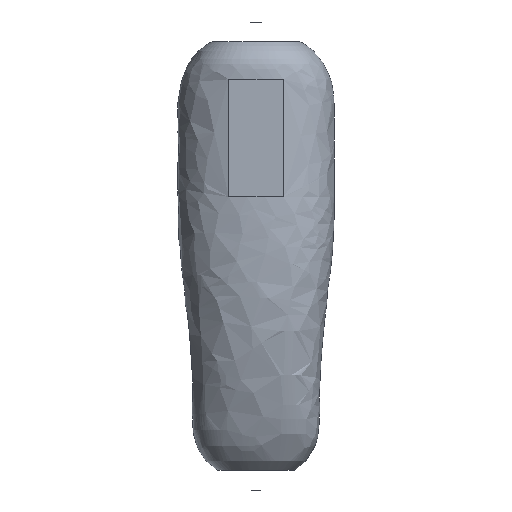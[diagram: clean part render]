
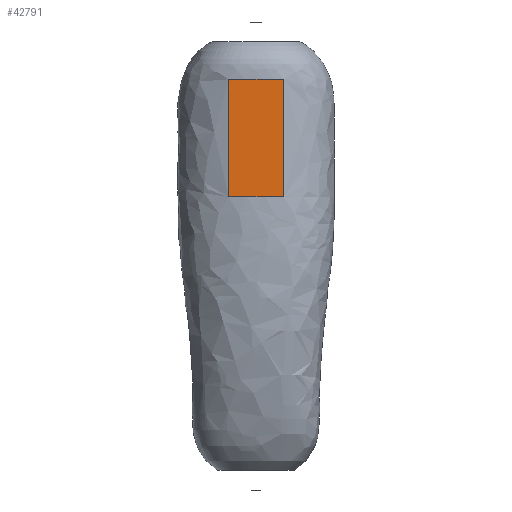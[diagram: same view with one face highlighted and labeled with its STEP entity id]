
A CAD part, left-side view. The second image highlights one B-rep face of the part: STEP entity #42791.
In plain terms, the highlighted planar face has unit normal (1, 0, 0).
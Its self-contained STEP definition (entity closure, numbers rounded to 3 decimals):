
#41129 = PLANE('',#41130);
#41130 = AXIS2_PLACEMENT_3D('',#41131,#41132,#41133);
#41131 = CARTESIAN_POINT('',(-67.6,-2.8,96.65));
#41132 = DIRECTION('',(0.,0.,1.));
#41133 = DIRECTION('',(1.,0.,-0.));
#41639 = PLANE('',#41640);
#41640 = AXIS2_PLACEMENT_3D('',#41641,#41642,#41643);
#41641 = CARTESIAN_POINT('',(-67.6,-2.8,96.65));
#41642 = DIRECTION('',(-0.,1.,0.));
#41643 = DIRECTION('',(0.,0.,1.));
#42050 = PLANE('',#42051);
#42051 = AXIS2_PLACEMENT_3D('',#42052,#42053,#42054);
#42052 = CARTESIAN_POINT('',(-67.6,-2.8,117.35));
#42053 = DIRECTION('',(0.,0.,1.));
#42054 = DIRECTION('',(1.,0.,-0.));
#42428 = PLANE('',#42429);
#42429 = AXIS2_PLACEMENT_3D('',#42430,#42431,#42432);
#42430 = CARTESIAN_POINT('',(-67.6,6.8,96.65));
#42431 = DIRECTION('',(-0.,1.,0.));
#42432 = DIRECTION('',(0.,0.,1.));
#42595 = VERTEX_POINT('',#42596);
#42596 = CARTESIAN_POINT('',(-67.6,6.8,96.65));
#42617 = EDGE_CURVE('',#42618,#42595,#42620,.T.);
#42618 = VERTEX_POINT('',#42619);
#42619 = CARTESIAN_POINT('',(-67.6,-2.8,96.65));
#42620 = SURFACE_CURVE('',#42621,(#42625,#42632),.PCURVE_S1.);
#42621 = LINE('',#42622,#42623);
#42622 = CARTESIAN_POINT('',(-67.6,-2.8,96.65));
#42623 = VECTOR('',#42624,1.);
#42624 = DIRECTION('',(-0.,1.,0.));
#42625 = PCURVE('',#41129,#42626);
#42626 = DEFINITIONAL_REPRESENTATION('',(#42627),#42631);
#42627 = LINE('',#42628,#42629);
#42628 = CARTESIAN_POINT('',(0.,0.));
#42629 = VECTOR('',#42630,1.);
#42630 = DIRECTION('',(0.,1.));
#42631 = ( GEOMETRIC_REPRESENTATION_CONTEXT(2) 
PARAMETRIC_REPRESENTATION_CONTEXT() REPRESENTATION_CONTEXT('2D SPACE',''
  ) );
#42632 = PCURVE('',#42633,#42638);
#42633 = PLANE('',#42634);
#42634 = AXIS2_PLACEMENT_3D('',#42635,#42636,#42637);
#42635 = CARTESIAN_POINT('',(-67.6,-2.8,96.65));
#42636 = DIRECTION('',(1.,0.,-0.));
#42637 = DIRECTION('',(0.,0.,1.));
#42638 = DEFINITIONAL_REPRESENTATION('',(#42639),#42643);
#42639 = LINE('',#42640,#42641);
#42640 = CARTESIAN_POINT('',(0.,0.));
#42641 = VECTOR('',#42642,1.);
#42642 = DIRECTION('',(0.,-1.));
#42643 = ( GEOMETRIC_REPRESENTATION_CONTEXT(2) 
PARAMETRIC_REPRESENTATION_CONTEXT() REPRESENTATION_CONTEXT('2D SPACE',''
  ) );
#42671 = EDGE_CURVE('',#42595,#42672,#42674,.T.);
#42672 = VERTEX_POINT('',#42673);
#42673 = CARTESIAN_POINT('',(-67.6,6.8,117.35));
#42674 = SURFACE_CURVE('',#42675,(#42679,#42686),.PCURVE_S1.);
#42675 = LINE('',#42676,#42677);
#42676 = CARTESIAN_POINT('',(-67.6,6.8,96.65));
#42677 = VECTOR('',#42678,1.);
#42678 = DIRECTION('',(0.,0.,1.));
#42679 = PCURVE('',#42428,#42680);
#42680 = DEFINITIONAL_REPRESENTATION('',(#42681),#42685);
#42681 = LINE('',#42682,#42683);
#42682 = CARTESIAN_POINT('',(0.,0.));
#42683 = VECTOR('',#42684,1.);
#42684 = DIRECTION('',(1.,0.));
#42685 = ( GEOMETRIC_REPRESENTATION_CONTEXT(2) 
PARAMETRIC_REPRESENTATION_CONTEXT() REPRESENTATION_CONTEXT('2D SPACE',''
  ) );
#42686 = PCURVE('',#42633,#42687);
#42687 = DEFINITIONAL_REPRESENTATION('',(#42688),#42692);
#42688 = LINE('',#42689,#42690);
#42689 = CARTESIAN_POINT('',(0.,-9.6));
#42690 = VECTOR('',#42691,1.);
#42691 = DIRECTION('',(1.,0.));
#42692 = ( GEOMETRIC_REPRESENTATION_CONTEXT(2) 
PARAMETRIC_REPRESENTATION_CONTEXT() REPRESENTATION_CONTEXT('2D SPACE',''
  ) );
#42720 = EDGE_CURVE('',#42618,#42721,#42723,.T.);
#42721 = VERTEX_POINT('',#42722);
#42722 = CARTESIAN_POINT('',(-67.6,-2.8,117.35));
#42723 = SURFACE_CURVE('',#42724,(#42728,#42735),.PCURVE_S1.);
#42724 = LINE('',#42725,#42726);
#42725 = CARTESIAN_POINT('',(-67.6,-2.8,96.65));
#42726 = VECTOR('',#42727,1.);
#42727 = DIRECTION('',(0.,0.,1.));
#42728 = PCURVE('',#41639,#42729);
#42729 = DEFINITIONAL_REPRESENTATION('',(#42730),#42734);
#42730 = LINE('',#42731,#42732);
#42731 = CARTESIAN_POINT('',(0.,0.));
#42732 = VECTOR('',#42733,1.);
#42733 = DIRECTION('',(1.,0.));
#42734 = ( GEOMETRIC_REPRESENTATION_CONTEXT(2) 
PARAMETRIC_REPRESENTATION_CONTEXT() REPRESENTATION_CONTEXT('2D SPACE',''
  ) );
#42735 = PCURVE('',#42633,#42736);
#42736 = DEFINITIONAL_REPRESENTATION('',(#42737),#42741);
#42737 = LINE('',#42738,#42739);
#42738 = CARTESIAN_POINT('',(0.,0.));
#42739 = VECTOR('',#42740,1.);
#42740 = DIRECTION('',(1.,0.));
#42741 = ( GEOMETRIC_REPRESENTATION_CONTEXT(2) 
PARAMETRIC_REPRESENTATION_CONTEXT() REPRESENTATION_CONTEXT('2D SPACE',''
  ) );
#42769 = EDGE_CURVE('',#42721,#42672,#42770,.T.);
#42770 = SURFACE_CURVE('',#42771,(#42775,#42782),.PCURVE_S1.);
#42771 = LINE('',#42772,#42773);
#42772 = CARTESIAN_POINT('',(-67.6,-2.8,117.35));
#42773 = VECTOR('',#42774,1.);
#42774 = DIRECTION('',(-0.,1.,0.));
#42775 = PCURVE('',#42050,#42776);
#42776 = DEFINITIONAL_REPRESENTATION('',(#42777),#42781);
#42777 = LINE('',#42778,#42779);
#42778 = CARTESIAN_POINT('',(0.,0.));
#42779 = VECTOR('',#42780,1.);
#42780 = DIRECTION('',(0.,1.));
#42781 = ( GEOMETRIC_REPRESENTATION_CONTEXT(2) 
PARAMETRIC_REPRESENTATION_CONTEXT() REPRESENTATION_CONTEXT('2D SPACE',''
  ) );
#42782 = PCURVE('',#42633,#42783);
#42783 = DEFINITIONAL_REPRESENTATION('',(#42784),#42788);
#42784 = LINE('',#42785,#42786);
#42785 = CARTESIAN_POINT('',(20.7,0.));
#42786 = VECTOR('',#42787,1.);
#42787 = DIRECTION('',(0.,-1.));
#42788 = ( GEOMETRIC_REPRESENTATION_CONTEXT(2) 
PARAMETRIC_REPRESENTATION_CONTEXT() REPRESENTATION_CONTEXT('2D SPACE',''
  ) );
#42791 = ADVANCED_FACE('',(#42792),#42633,.T.);
#42792 = FACE_BOUND('',#42793,.T.);
#42793 = EDGE_LOOP('',(#42794,#42795,#42796,#42797));
#42794 = ORIENTED_EDGE('',*,*,#42720,.F.);
#42795 = ORIENTED_EDGE('',*,*,#42617,.T.);
#42796 = ORIENTED_EDGE('',*,*,#42671,.T.);
#42797 = ORIENTED_EDGE('',*,*,#42769,.F.);
